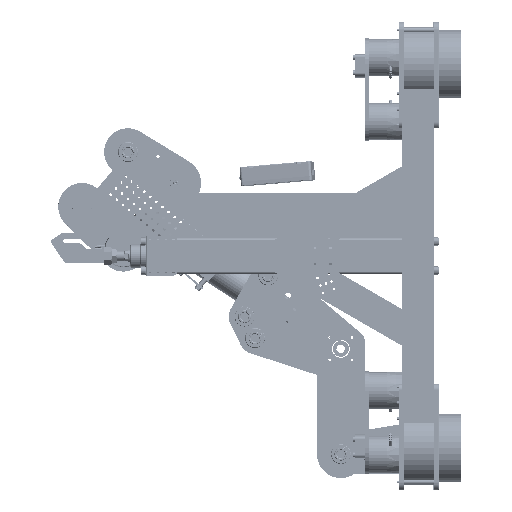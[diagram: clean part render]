
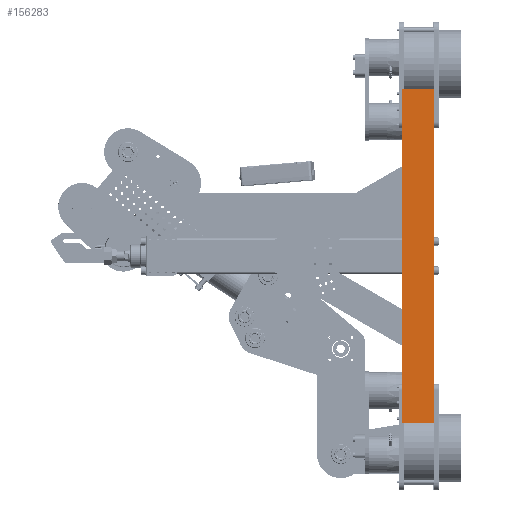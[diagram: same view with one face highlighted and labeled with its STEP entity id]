
A CAD part, left-side view. The second image highlights one B-rep face of the part: STEP entity #156283.
In plain terms, the highlighted planar face has unit normal (-1, 0, 0).
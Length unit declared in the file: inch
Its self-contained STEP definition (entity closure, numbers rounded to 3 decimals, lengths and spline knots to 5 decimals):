
#18095 = DIRECTION ( 'NONE',  ( 1., 0., 0. ) ) ;
#24814 = VECTOR ( 'NONE', #83535, 39.37008 ) ;
#28188 = VERTEX_POINT ( 'NONE', #314297 ) ;
#33415 = CARTESIAN_POINT ( 'NONE',  ( -0.5, 1., 21. ) ) ;
#38667 = VERTEX_POINT ( 'NONE', #302948 ) ;
#45395 = CARTESIAN_POINT ( 'NONE',  ( -0.5, 1., 21. ) ) ;
#66155 = CARTESIAN_POINT ( 'NONE',  ( -0.5, 1., 21. ) ) ;
#72991 = VECTOR ( 'NONE', #316541, 39.37008 ) ;
#83535 = DIRECTION ( 'NONE',  ( 0., -1., 0. ) ) ;
#87952 = LINE ( 'NONE', #33415, #92560 ) ;
#88489 = LINE ( 'NONE', #45395, #72991 ) ;
#92560 = VECTOR ( 'NONE', #188764, 39.37008 ) ;
#100393 = EDGE_CURVE ( 'NONE', #307488, #28188, #258726, .T. ) ;
#101970 = EDGE_CURVE ( 'NONE', #232913, #307488, #88489, .T. ) ;
#115447 = CARTESIAN_POINT ( 'NONE',  ( -0.5, -1., 21. ) ) ;
#140569 = ORIENTED_EDGE ( 'NONE', *, *, #101970, .T. ) ;
#142202 = FACE_OUTER_BOUND ( 'NONE', #233440, .T. ) ;
#156283 = ADVANCED_FACE ( 'NONE', ( #142202 ), #322271, .F. ) ;
#171616 = DIRECTION ( 'NONE',  ( 0., 0., -1. ) ) ;
#188764 = DIRECTION ( 'NONE',  ( 0., -1., 0. ) ) ;
#215152 = EDGE_CURVE ( 'NONE', #38667, #28188, #265915, .T. ) ;
#225350 = ORIENTED_EDGE ( 'NONE', *, *, #100393, .T. ) ;
#232913 = VERTEX_POINT ( 'NONE', #242966 ) ;
#233440 = EDGE_LOOP ( 'NONE', ( #225350, #246460, #239194, #140569 ) ) ;
#239194 = ORIENTED_EDGE ( 'NONE', *, *, #285203, .F. ) ;
#242966 = CARTESIAN_POINT ( 'NONE',  ( -0.5, 1., 21. ) ) ;
#245684 = VECTOR ( 'NONE', #171616, 39.37008 ) ;
#246460 = ORIENTED_EDGE ( 'NONE', *, *, #215152, .F. ) ;
#252389 = CARTESIAN_POINT ( 'NONE',  ( -0.5, 1., 0. ) ) ;
#258726 = LINE ( 'NONE', #306694, #24814 ) ;
#265915 = LINE ( 'NONE', #115447, #245684 ) ;
#285203 = EDGE_CURVE ( 'NONE', #232913, #38667, #87952, .T. ) ;
#288949 = AXIS2_PLACEMENT_3D ( 'NONE', #66155, #18095, #294231 ) ;
#294231 = DIRECTION ( 'NONE',  ( 0., 1., 0. ) ) ;
#302948 = CARTESIAN_POINT ( 'NONE',  ( -0.5, -1., 21. ) ) ;
#306694 = CARTESIAN_POINT ( 'NONE',  ( -0.5, 1., 0. ) ) ;
#307488 = VERTEX_POINT ( 'NONE', #252389 ) ;
#314297 = CARTESIAN_POINT ( 'NONE',  ( -0.5, -1., 0. ) ) ;
#316541 = DIRECTION ( 'NONE',  ( 0., 0., -1. ) ) ;
#322271 = PLANE ( 'NONE',  #288949 ) ;
